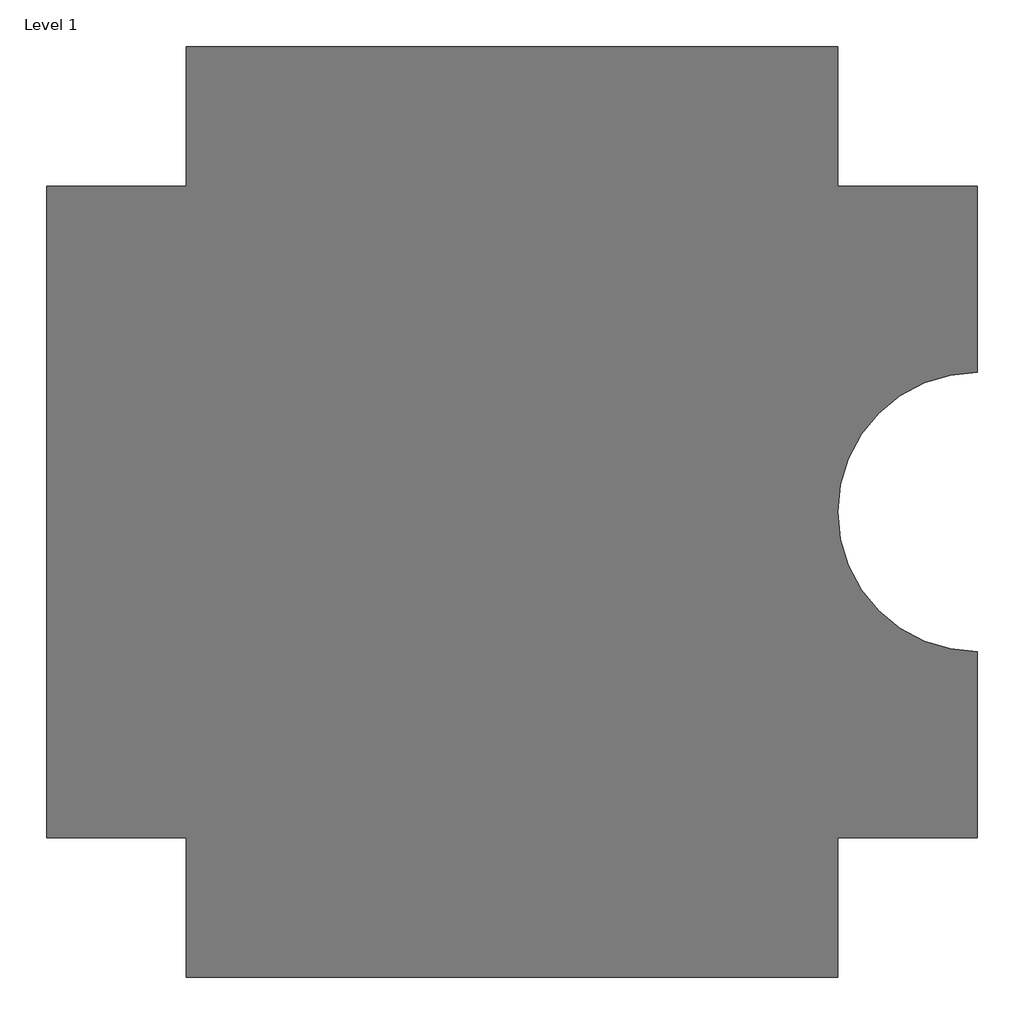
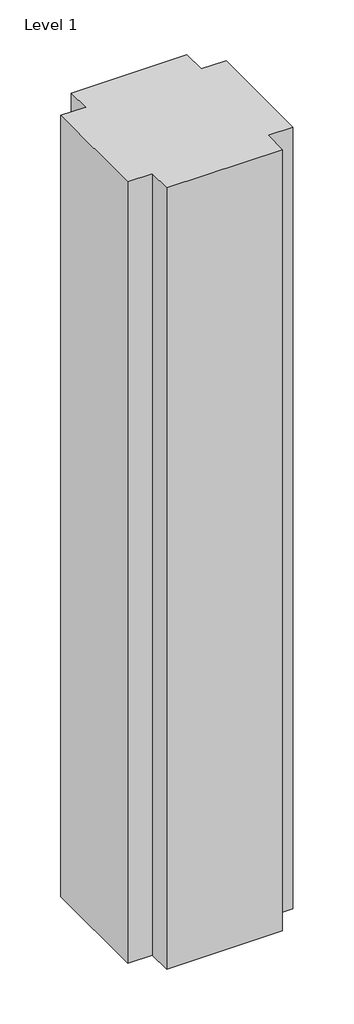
# One storey: 1 proxy.
"""IFC4 building model written with IfcOpenShell, lengths in millimetres."""

from ifc_helpers import new_model, si_unit, frame, origin, place, context, project, spatial, polyline, circle_curve, element, save
from ifc_brep_helpers import plane_surface, revolved_surface, advanced_brep

model = new_model("IFC4")

# Units and contexts
model_context = context("Model", 3, world=origin())
ifc_project = project(units=[si_unit("LENGTHUNIT", "METRE", prefix="MILLI")], contexts=[model_context])

# Site, building, storey
site = spatial("IfcSite", under=ifc_project)
building = spatial("IfcBuilding", under=site)
storey = spatial("IfcBuildingStorey", under=building, Name="Level 1", Elevation=0.0)

# Proxy
placement = place(None, origin())
element("IfcBuildingElementProxy", 1, Name="Mass 1 : Mass 1", ObjectType="Mass 1 : Mass 1", at=placement, inside=storey, context=model_context, shape_type="AdvancedBrep", body=[
    advanced_brep(
    [(-7150.3629456, 4479.6634547, 152400.0), (-11722.3629456, 4479.6634547, 152400.0), (-11722.3629456, -16856.3365453, 152400.0), (-7150.3629456, -16856.3365453, 152400.0), (-7150.3629456, -21428.3365453, 152400.0), (14185.6370544, -21428.3365453, 152400.0), (14185.6370544, -16856.3365453, 152400.0), (18757.6370544, -16856.3365453, 152400.0), (18757.6370544, 4479.6634547, 152400.0), (14185.6370544, 4479.6634547, 152400.0), (14185.6370544, 9051.6634547, 152400.0), (-7150.3629456, 9051.6634547, 152400.0), (-7150.3629456, 4479.6634547, 0.0), (-7150.3629456, 9051.6634547, 0.0), (14185.6370544, 9051.6634547, 0.0), (14185.6370544, 4479.6634547, 0.0), (18757.6370544, 4479.6634547, 0.0), (18757.6370544, -1616.3365453, 0.0), (18757.6370544, -10760.3365453, 0.0), (18757.6370544, -16856.3365453, 0.0), (14185.6370544, -16856.3365453, 0.0), (14185.6370544, -21428.3365453, 0.0), (-7150.3629456, -21428.3365453, 0.0), (-7150.3629456, -16856.3365453, 0.0), (-11722.3629456, -16856.3365453, 0.0), (-11722.3629456, 4479.6634547, 0.0), (18757.6370544, -10760.3365453, 121920.0), (18757.6370544, -1616.3365453, 121920.0)],
    [
        (0, 1),
        (1, 2),
        (2, 3),
        (3, 4),
        (4, 5),
        (5, 6),
        (6, 7),
        (7, 8),
        (8, 9),
        (9, 10),
        (10, 11),
        (11, 0),
        (12, 13),
        (13, 14),
        (14, 15),
        (15, 16),
        (16, 17),
        (17, 18, circle_curve(frame((18757.6370544, -6188.3365453, 0.0), z_axis=(0.0, 0.0, 1.0), x_axis=(1.0, 0.0, 0.0)), 4572.0)),
        (18, 19),
        (19, 20),
        (20, 21),
        (21, 22),
        (22, 23),
        (23, 24),
        (24, 25),
        (25, 12),
        (0, 12),
        (25, 1),
        (24, 2),
        (23, 3),
        (22, 4),
        (21, 5),
        (20, 6),
        (19, 7),
        (18, 26),
        (26, 27),
        (27, 17),
        (16, 8),
        (15, 9),
        (14, 10),
        (13, 11),
        (26, 27, circle_curve(frame((18757.6370544, -6188.3365453, 121920.0), z_axis=(0.0, 0.0, -1.0), x_axis=(1.0, 0.0, 0.0)), 4572.0)),
    ],
    [
        plane_surface(frame((-11722.3629456, 4479.6634547, 152400.0), z_axis=(0.0, 0.0, 1.0), x_axis=(-1.0, 0.0, 0.0))),
        plane_surface(frame((-11722.3629456, 4479.6634547, 0.0), z_axis=(0.0, 0.0, -1.0), x_axis=(1.0, 0.0, 0.0))),
        plane_surface(frame((-7150.3629456, 4479.6634547, 152400.0), z_axis=(0.0, 1.0, 0.0), x_axis=(0.0, 0.0, -1.0))),
        plane_surface(frame((-11722.3629456, 4479.6634547, 152400.0), z_axis=(-1.0, 0.0, 0.0), x_axis=(0.0, 0.0, -1.0))),
        plane_surface(frame((-11722.3629456, -16856.3365453, 152400.0), z_axis=(0.0, -1.0, 0.0), x_axis=(0.0, 0.0, -1.0))),
        plane_surface(frame((-7150.3629456, -16856.3365453, 152400.0), z_axis=(-1.0, 0.0, 0.0), x_axis=(0.0, 0.0, -1.0))),
        plane_surface(frame((-7150.3629456, -21428.3365453, 152400.0), z_axis=(0.0, -1.0, 0.0), x_axis=(0.0, 0.0, -1.0))),
        plane_surface(frame((14185.6370544, -21428.3365453, 152400.0), z_axis=(1.0, 0.0, 0.0), x_axis=(0.0, 0.0, -1.0))),
        plane_surface(frame((14185.6370544, -16856.3365453, 152400.0), z_axis=(0.0, -1.0, 0.0), x_axis=(0.0, 0.0, -1.0))),
        plane_surface(frame((18757.6370544, -16856.3365453, 152400.0), z_axis=(1.0, 0.0, 0.0), x_axis=(0.0, 0.0, -1.0))),
        plane_surface(frame((18757.6370544, 4479.6634547, 152400.0), z_axis=(0.0, 1.0, 0.0), x_axis=(0.0, 0.0, -1.0))),
        plane_surface(frame((14185.6370544, 4479.6634547, 152400.0), z_axis=(1.0, 0.0, 0.0), x_axis=(0.0, 0.0, -1.0))),
        plane_surface(frame((14185.6370544, 9051.6634547, 152400.0), z_axis=(0.0, 1.0, 0.0), x_axis=(0.0, 0.0, -1.0))),
        plane_surface(frame((-7150.3629456, 9051.6634547, 152400.0), z_axis=(-1.0, 0.0, 0.0), x_axis=(0.0, 0.0, -1.0))),
        plane_surface(frame((18757.6370544, -10760.3365453, 121920.0), z_axis=(0.0, 0.0, -1.0), x_axis=(0.0, 1.0, 0.0))),
        revolved_surface(polyline([(23329.6370544, -6188.3365453, 121920.0), (23329.6370544, -6188.3365453, 0.0)]), (18757.6370544, -6188.3365453, 0.0), (0.0, 0.0, 1.0)),
    ],
    [
        (0, [[1, 2, 3, 4, 5, 6, 7, 8, 9, 10, 11, 12]]),
        (1, [[13, 14, 15, 16, 17, 18, 19, 20, 21, 22, 23, 24, 25, 26]]),
        (2, [[-1, 27, -26, 28]]),
        (3, [[-2, -28, -25, 29]]),
        (4, [[-3, -29, -24, 30]]),
        (5, [[-4, -30, -23, 31]]),
        (6, [[-5, -31, -22, 32]]),
        (7, [[-6, -32, -21, 33]]),
        (8, [[-7, -33, -20, 34]]),
        (9, [[-8, -34, -19, 35, 36, 37, -17, 38]]),
        (10, [[-9, -38, -16, 39]]),
        (11, [[-10, -39, -15, 40]]),
        (12, [[-11, -40, -14, 41]]),
        (13, [[-12, -41, -13, -27]]),
        (14, [[42, -36]]),
        (15, [[-42, -35, -18, -37]]),
    ],
),
])

save(model, "model.ifc")
